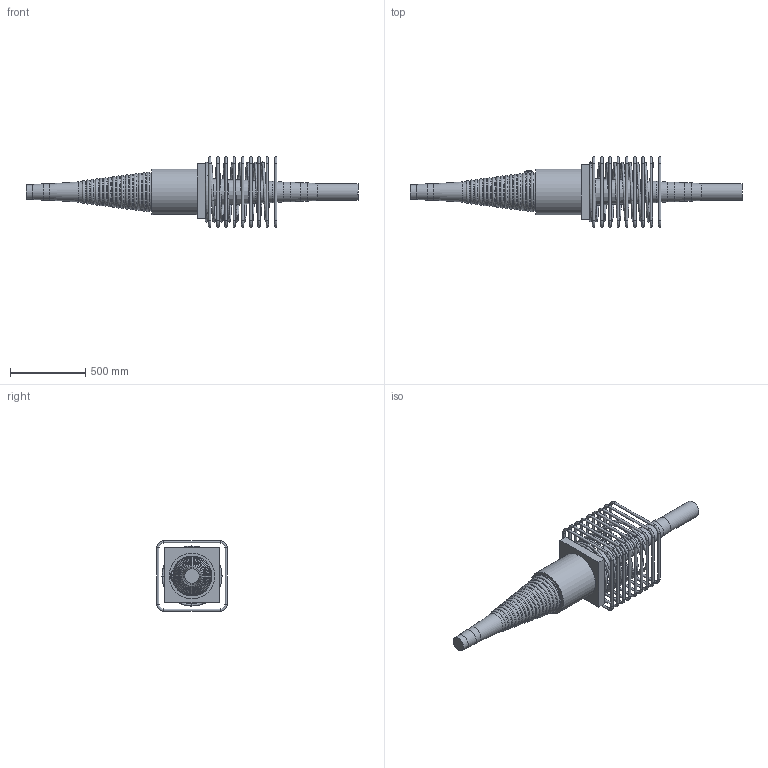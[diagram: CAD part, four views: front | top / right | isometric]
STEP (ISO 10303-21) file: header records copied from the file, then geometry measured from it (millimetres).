
FILE_DESCRIPTION(/* description */ (''),/* implementation_level */ '2;1');
FILE_NAME(/* name */ 'Z:\04 Publications\05 Give-out\BBR\6_3D_Models\BBR VT CONA CMI\BBR VT CONA CMI SP\02206\BBR VT CONA CMI SP 2206_Coupler H Assembly_CS-34,28.stp',/* time_stamp */ '2017-05-05T16:20:59+02:00',/* author */ ('IP'),/* organization */ (''),/* preprocessor_version */ 'ST-DEVELOPER v16.1',/* originating_system */ 'Autodesk Inventor 2016',/* authorisation */ '');
FILE_SCHEMA (('AUTOMOTIVE_DESIGN { 1 0 10303 214 3 1 1 }'));
Products named in the file (1): BBR VT CONA CMI SP 2206_Coupler H Assembly_CS-34,28
Bounding box: 2212 x 470 x 470 mm (x, y, z)
Volume: 69930378.2 mm3; surface area: 2821673.7 mm2
Topology: 11 solids, 11 shells, 901 faces, 2334 edges, 1495 vertices
Faces by surface type: bspline 420, plane 260, cylinder 108, torus 95, cone 18
Full cylindrical faces by diameter (mm): 16 x36, 33 x1, 56 x1, 99 x1, 109 x1, 111.725 x1, 121.793 x1, 131.862 x1, 141.932 x1, 305 x1
Entity records: 40961 total; most frequent: CARTESIAN_POINT 21883, ORIENTED_EDGE 4346, DIRECTION 2706, EDGE_CURVE 2170, VERTEX_POINT 1490, EDGE_LOOP 1123, LINE 914, VECTOR 914
